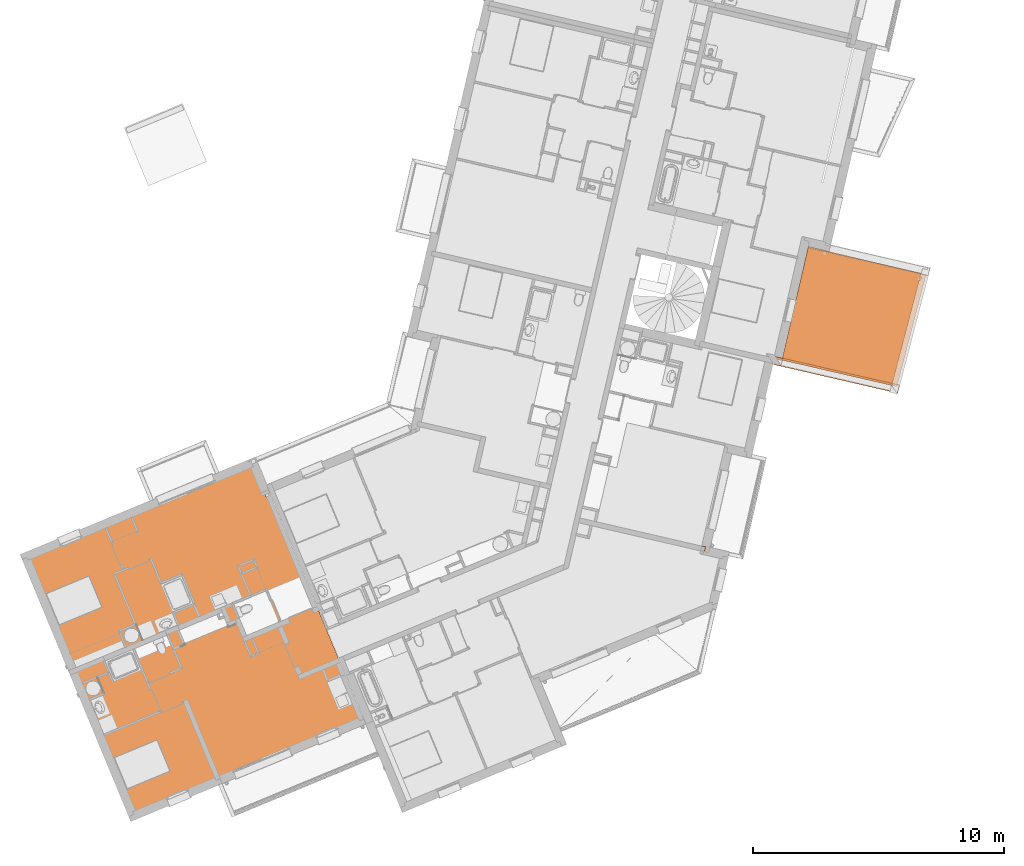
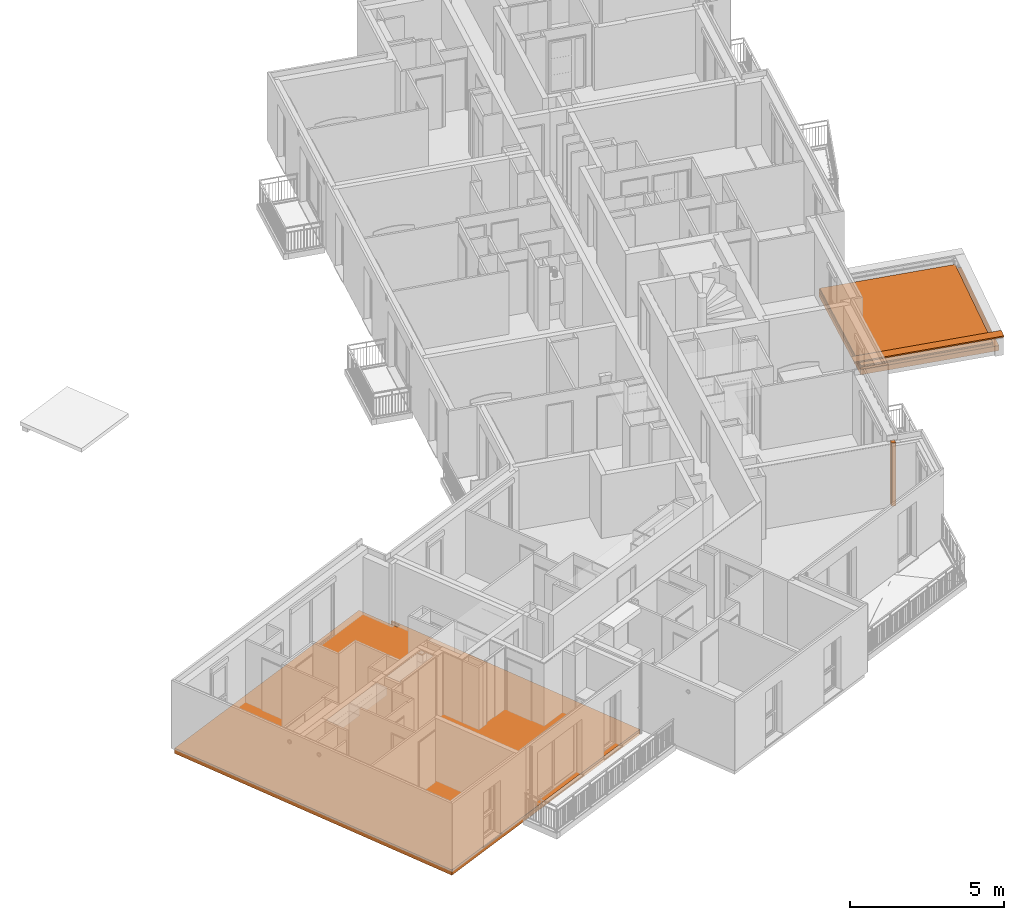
# One storey, part 89 of 90: 6 proxies, 1 opening.
"""IFC2X3 building model written with IfcOpenShell, lengths in metres."""

from ifc_helpers import new_model, entity, si_unit, converted_unit, derived_unit, money_unit, direction, frame, origin_with_axes, place, context, subcontext, project, spatial, faceted_brep, material, material_list, type_object, element, save


model = new_model("IFC2X3")

# Units and contexts
model_context = context("Model", 3, precision=1e-05, world=origin_with_axes(), true_north=direction((0.0, 1.0)))
body_context = subcontext(model_context, "Body", "Model", "MODEL_VIEW")
ifc_project = project(units=[si_unit("LENGTHUNIT", "METRE"), si_unit("AREAUNIT", "SQUARE_METRE"), si_unit("VOLUMEUNIT", "CUBIC_METRE"), converted_unit("PLANEANGLEUNIT", "DEGREE", entity("IfcPlaneAngleMeasure", 0.0174532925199), si_unit("PLANEANGLEUNIT", "RADIAN"), dimensions=[0, 0, 0, 0, 0, 0, 0]), si_unit("SOLIDANGLEUNIT", "STERADIAN"), money_unit("EUR"), converted_unit("TIMEUNIT", "Year", entity("IfcTimeMeasure", 31556926.0), si_unit("TIMEUNIT", "SECOND"), dimensions=[0, 0, 1, 0, 0, 0, 0]), si_unit("MASSUNIT", "GRAM", prefix="KILO"), si_unit("THERMODYNAMICTEMPERATUREUNIT", "DEGREE_CELSIUS"), si_unit("LUMINOUSINTENSITYUNIT", "LUMEN"), si_unit("ENERGYUNIT", "JOULE", prefix="MEGA"), derived_unit("THERMALCONDUCTANCEUNIT", [(si_unit("POWERUNIT", "WATT"), 1), (si_unit("LENGTHUNIT", "METRE"), -1), (si_unit("THERMODYNAMICTEMPERATUREUNIT", "KELVIN"), -1)]), derived_unit("SPECIFICHEATCAPACITYUNIT", [(si_unit("ENERGYUNIT", "JOULE"), 1), (si_unit("MASSUNIT", "GRAM", prefix="KILO"), -1), (si_unit("THERMODYNAMICTEMPERATUREUNIT", "KELVIN"), -1)]), derived_unit("MASSDENSITYUNIT", [(si_unit("MASSUNIT", "GRAM", prefix="KILO"), 1), (si_unit("VOLUMEUNIT", "CUBIC_METRE"), -1)])], contexts=[model_context])

# Site, building, storey
site_placement = place(None, origin_with_axes())
site = spatial("IfcSite", under=ifc_project, at=site_placement, Name="Site", CompositionType="ELEMENT")
building_placement = place(site_placement, origin_with_axes())
building = spatial("IfcBuilding", under=site, at=building_placement, Name="Bâtiment", CompositionType="ELEMENT")
storey_placement = place(building_placement, frame((0.0, 0.0, 2.72), z_axis=(0.0, 0.0, 1.0), x_axis=(1.0, 0.0, 0.0)))
storey = spatial("IfcBuildingStorey", under=building, at=storey_placement, Name="R+1", CompositionType="ELEMENT", Elevation=2.72)

# Proxies
ifc_material_1 = material(Name="Béton")
building_element_proxy_type_1 = type_object("IfcBuildingElementProxyType", Name="Béton 200", PredefinedType="NOTDEFINED")
proxy_1_placement = place(storey_placement, frame((-3.96977250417, -5.64974189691, -0.3), z_axis=(0.0, 0.0, 1.0), x_axis=(1.0, 0.0, 0.0)))
element("IfcBuildingElementProxy", 1, at=proxy_1_placement, inside=storey, type_object=building_element_proxy_type_1, material=ifc_material_1, Name="Dalle_004", context=body_context, shape_type="Brep", body=[
    faceted_brep([(-1.04792307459, -4.54064503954, -0.2), (-1.04792307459, -4.54064503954, 0.0), (0.0, 0.0, 0.0), (0.0, 0.0, -0.2), (3.53876523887, -5.59821100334, -0.2), (3.53876523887, -5.59821100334, 0.0), (4.70315746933, -1.12938042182, 0.0), (4.70315746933, -1.12938042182, -0.2)], [[[0, 1, 2, 3]], [[4, 5, 1, 0]], [[1, 5, 6, 2]], [[3, 2, 6, 7]], [[7, 4, 0, 3]], [[7, 6, 5, 4]]]),
])
ifc_material_2 = material(Name="Métal - Aluminium")
building_element_proxy_type_2 = type_object("IfcBuildingElementProxyType", Name="Couvertine Métal 330 x 50", PredefinedType="USERDEFINED")
proxy_2_placement = place(storey_placement, frame((-0.513712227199, -11.3120444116, 0.228000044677), z_axis=(0.0, 0.0, 1.0), x_axis=(-0.974387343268, 0.224876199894, 0.0)))
element("IfcBuildingElementProxy", 2, at=proxy_2_placement, inside=storey, type_object=building_element_proxy_type_2, material=ifc_material_2, Name="Couvertine métal laqué", ObjectType="CONSTRUCTION ELEMENT", context=body_context, shape_type="Brep", body=[
    faceted_brep([(0.150485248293, -0.158709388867, -0.0416371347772), (0.150592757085, -0.154881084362, -0.0416371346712), (0.154637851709, -0.159041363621, -0.0442531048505), (0.154530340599, -0.162869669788, -0.0442531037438), (0.151745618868, -0.156066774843, -0.0399754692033), (4.93344029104, -0.154881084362, -0.0416371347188), (4.93344029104, -0.165000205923, -0.048), (0.160431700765, -0.165000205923, -0.048), (0.1544705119, -0.165000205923, -0.0442531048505), (0.15836015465, -0.162869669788, -0.0442531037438), (4.93344029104, -0.162869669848, -0.0442531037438), (4.93344029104, -0.156066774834, -0.0399754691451), (4.93344029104, 0.156066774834, -0.0399754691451), (4.93344029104, 0.154881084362, -0.0416371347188), (4.93344029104, 0.165000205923, -0.048), (4.93344029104, 0.165000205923, 0.002), (4.93344029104, -0.165000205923, 0.002), (4.93344029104, -0.162869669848, 0.0), (4.93344029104, 0.162869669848, 0.0), (4.93344029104, 0.162869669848, -0.0442531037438), (-0.169698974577, -0.165000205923, 0.00200000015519), (-0.169698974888, -0.165000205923, -3.21436033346e-09), (-0.167567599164, -0.165000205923, -3.21436033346e-09), (0.158300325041, -0.165000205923, -3.21436033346e-09), (0.158300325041, -0.165000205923, -0.0399754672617), (0.158300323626, -0.165000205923, -0.0442531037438), (0.158360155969, -0.162869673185, -0.0399754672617), (0.158360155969, -0.162869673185, -3.21436033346e-09), (-0.154422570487, 0.154881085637, -0.0416371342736), (-0.151745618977, 0.156066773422, -0.0399754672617), (-0.160431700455, 0.165000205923, -0.048), (-0.158467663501, 0.159041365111, -0.0442531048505), (-0.16059904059, 0.159041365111, -0.0442531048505), (-0.160431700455, 0.165000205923, 0.00200000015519), (-0.167507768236, -0.162869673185, -3.21436033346e-09), (-0.169639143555, -0.162869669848, 0.0), (-0.160491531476, 0.162869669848, 0.0), (-0.158360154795, 0.162869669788, -0.0442531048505), (-0.160491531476, 0.162869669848, -0.0442531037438)], [[[0, 1, 2, 3]], [[4, 1, 0]], [[5, 6, 7, 2, 1]], [[3, 2, 7, 8]], [[3, 9, 10, 11, 4, 0]], [[4, 11, 5, 1]], [[12, 13, 14, 15, 16, 6, 5, 11, 10, 17, 18, 19]], [[8, 7, 6, 16, 20, 21, 22, 23, 24, 25]], [[8, 25, 9, 3]], [[10, 9, 26, 27, 17]], [[28, 13, 12, 29]], [[30, 14, 13, 28, 31, 32]], [[33, 15, 14, 30]], [[20, 16, 15, 33]], [[18, 17, 27, 34, 35, 36]], [[37, 19, 18, 36, 38]], [[29, 12, 19, 37]], [[20, 33, 30, 32, 38, 36, 35, 21]], [[22, 21, 35, 34]], [[34, 27, 23, 22]], [[24, 23, 27, 26]], [[24, 26, 9, 25]], [[29, 37, 31, 28]], [[32, 31, 37, 38]]]),
])
building_element_proxy_type_3 = type_object("IfcBuildingElementProxyType", Name="Béton 180", PredefinedType="NOTDEFINED")
proxy_3_placement = place(storey_placement, frame((-8.05114683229, -17.6308126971, -0.21), z_axis=(0.0, 0.0, 1.0), x_axis=(-0.97438734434, 0.224876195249, 0.0)))
element("IfcBuildingElementProxy", 3, at=proxy_3_placement, inside=storey, type_object=building_element_proxy_type_3, material=ifc_material_1, Name="M_Ext-009", context=body_context, shape_type="Brep", body=[
    faceted_brep([(0.0, 0.18, 2.72), (0.0, 0.18, 0.21), (0.0, 0.0, 0.21), (0.0, 0.0, 2.72), (0.144999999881, 0.18, 2.72), (0.144999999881, 0.18, 0.21), (0.144999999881, 0.0, 0.21), (0.144999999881, 0.0, 2.72)], [[[0, 1, 2, 3]], [[4, 5, 1, 0]], [[5, 6, 2, 1]], [[3, 2, 6, 7]], [[0, 3, 7, 4]], [[7, 6, 5, 4]]]),
])

# Proxy, opening
building_element_proxy_type_4 = type_object("IfcBuildingElementProxyType", Name="Béton 210", PredefinedType="NOTDEFINED")
proxy_4_placement = place(storey_placement, frame((-26.0625284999, -14.1554046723, 0.0), z_axis=(0.0, 0.0, 1.0), x_axis=(1.0, 0.0, 0.0)))
proxy_4 = element("IfcBuildingElementProxy", 4, at=proxy_4_placement, inside=storey, type_object=building_element_proxy_type_4, material=ifc_material_1, Name="Dalle_004", context=body_context, shape_type="Brep", body=[
    faceted_brep([(0.459863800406, -1.10875328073, -1.83211090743e-09), (0.59842148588, -1.44282212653, 0.0), (0.476492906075, -1.49339296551, 0.0), (-0.12192888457, -0.0505709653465, -1.55686574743e-09), (-9.22964271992, -3.82806702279, 0.0), (-4.8751137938, -14.3270331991, 0.0), (4.41734035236, -10.4729146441, 0.0), (0.522674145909, -1.08269828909, 0.0), (-0.65909989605, -6.46595542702, 0.0), (-0.654429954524, -6.47721486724, 0.0), (-0.665581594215, -6.46842925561, 0.0), (0.59842148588, -1.44282212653, -0.200000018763), (0.459863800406, -1.10875328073, -0.200000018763), (0.476492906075, -1.49339296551, -0.21), (0.598421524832, -1.44282211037, -0.21), (-0.121928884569, -0.0505709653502, -0.21), (-9.22964271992, -3.82806702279, -0.21), (-4.8751137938, -14.3270331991, -0.21), (4.41734035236, -10.4729146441, -0.21), (0.522674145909, -1.08269828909, -0.21), (0.459863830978, -1.10875326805, -0.21), (-0.65909989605, -6.46595542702, -0.21), (-0.654429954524, -6.47721486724, -0.21), (-0.665581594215, -6.46842925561, -0.21)], [[[0, 1, 2, 3, 4, 5, 6, 7], [8, 9, 10]], [[11, 1, 0, 12]], [[13, 2, 1, 11, 14]], [[3, 2, 13, 15]], [[4, 3, 15, 16]], [[5, 4, 16, 17]], [[6, 5, 17, 18]], [[7, 6, 18, 19]], [[20, 12, 0, 7, 19]], [[9, 8, 21, 22]], [[10, 9, 22, 23]], [[8, 10, 23, 21]], [[12, 20, 14, 11]], [[13, 14, 20, 19, 18, 17, 16, 15], [22, 21, 23]]]),
])
opening_placement = place(proxy_4_placement, origin_with_axes())
element("IfcOpeningElement", 5, at=opening_placement, cuts=proxy_4, Name="Ouverture de dalle", context=body_context, shape_type="Brep", body=[
    faceted_brep([(-0.665581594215, -6.46842925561, -0.21), (-0.65909989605, -6.46595542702, -0.21), (-0.654429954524, -6.47721486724, -0.21), (-0.665581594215, -6.46842925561, 0.0), (-0.65909989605, -6.46595542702, 0.0), (-0.654429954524, -6.47721486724, 0.0)], [[[0, 1, 2]], [[3, 4, 1, 0]], [[4, 5, 2, 1]], [[5, 3, 0, 2]], [[4, 3, 5]]]),
])

# Proxies
ifc_material_3 = material(Name="Etanchéité - Bitume")
ifc_material_4 = material(Name="Isolation - Polyuréthane (extérieur)")
ifc_material_list = material_list([ifc_material_3, ifc_material_4])
building_element_proxy_type_5 = type_object("IfcBuildingElementProxyType", Name="6 - Isolation sur terrasse sous gravier 110", PredefinedType="NOTDEFINED")
proxy_5_placement = place(storey_placement, frame((-3.97876753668, -5.68871741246, -0.189999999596), z_axis=(0.0, 0.0, 1.0), x_axis=(1.0, 0.0, 0.0)))
element("IfcBuildingElementProxy", 6, at=proxy_5_placement, inside=storey, type_object=building_element_proxy_type_5, material=ifc_material_list, Name="Dalle_004", context=body_context, shape_type="Brep", body=[
    faceted_brep([(-1.03885459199, -4.50135127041, 0.0), (-1.02423878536, -4.50472441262, 0.0), (-1.02431223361, -4.50504266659, 0.0), (3.35256429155, -5.51517007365, 0.0), (4.51791098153, -1.04267636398, 0.0), (0.0, 0.0, 0.0), (-1.02423878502, -4.5047244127, -0.01), (-1.03885459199, -4.50135127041, -0.01), (-1.02431223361, -4.50504266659, -0.01), (3.35256429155, -5.51517007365, -0.01), (4.51791098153, -1.04267636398, -0.01), (0.0, 0.0, -0.01)], [[[0, 1, 2, 3, 4, 5]], [[6, 1, 0, 7]], [[8, 2, 1, 6]], [[3, 2, 8, 9]], [[3, 9, 10, 4]], [[4, 10, 11, 5]], [[11, 7, 0, 5]], [[8, 6, 7, 11, 10, 9]]]),
    faceted_brep([(0.0, 0.0, -0.11), (-1.03892804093, -4.50166952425, -0.11), (-1.03892804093, -4.50166952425, -0.01), (0.0, 0.0, -0.01), (4.51791098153, -1.04267636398, -0.11), (3.35256429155, -5.51517007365, -0.11), (3.35256429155, -5.51517007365, -0.01), (4.51791098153, -1.04267636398, -0.01)], [[[0, 1, 2, 3]], [[0, 4, 5, 1]], [[1, 5, 6, 2]], [[3, 2, 6, 7]], [[4, 0, 3, 7]], [[5, 4, 7, 6]]]),
])
ifc_material_5 = material(Name="Env. - Gravier")
building_element_proxy_type_6 = type_object("IfcBuildingElementProxyType", Name="Env. - Gravier 50", PredefinedType="NOTDEFINED")
proxy_6_placement = place(storey_placement, frame((-3.96729605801, -5.70571492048, -0.139999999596), z_axis=(0.0, 0.0, 1.0), x_axis=(1.0, 0.0, 0.0)))
element("IfcBuildingElementProxy", 7, at=proxy_6_placement, inside=storey, type_object=building_element_proxy_type_6, material=ifc_material_5, Name="Dalle_004", context=body_context, shape_type="Brep", body=[
    faceted_brep([(-1.02067861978, -4.35777888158, 0.0), (-1.00647636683, -4.36105658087, 0.0), (-1.03353495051, -4.47830128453, 0.0), (3.3322776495, -5.48587528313, 0.0), (4.48803433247, -1.03682546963, 0.0), (0.0, 0.0, 0.0), (-1.02067862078, -4.35777888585, -0.05), (-1.00647636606, -4.36105658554, -0.05), (-1.03578371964, -4.48804515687, -0.05), (-1.03578371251, -4.48804515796, -0.0494976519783), (-1.03353495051, -4.47830128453, -0.0494976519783), (3.33227764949, -5.48587528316, -0.0494976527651), (3.32976240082, -5.49555765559, -0.0494976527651), (3.32976240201, -5.49555765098, -0.05), (4.48803433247, -1.03682546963, -0.05), (0.0, 0.0, -0.05)], [[[0, 1, 2, 3, 4, 5]], [[6, 7, 1, 0]], [[8, 9, 10, 2, 1, 7]], [[10, 11, 3, 2]], [[4, 3, 11, 12, 13, 14]], [[15, 5, 4, 14]], [[5, 15, 6, 0]], [[13, 8, 7, 6, 15, 14]], [[13, 12, 9, 8]], [[12, 11, 10, 9]]]),
])

save(model, "model.ifc")
